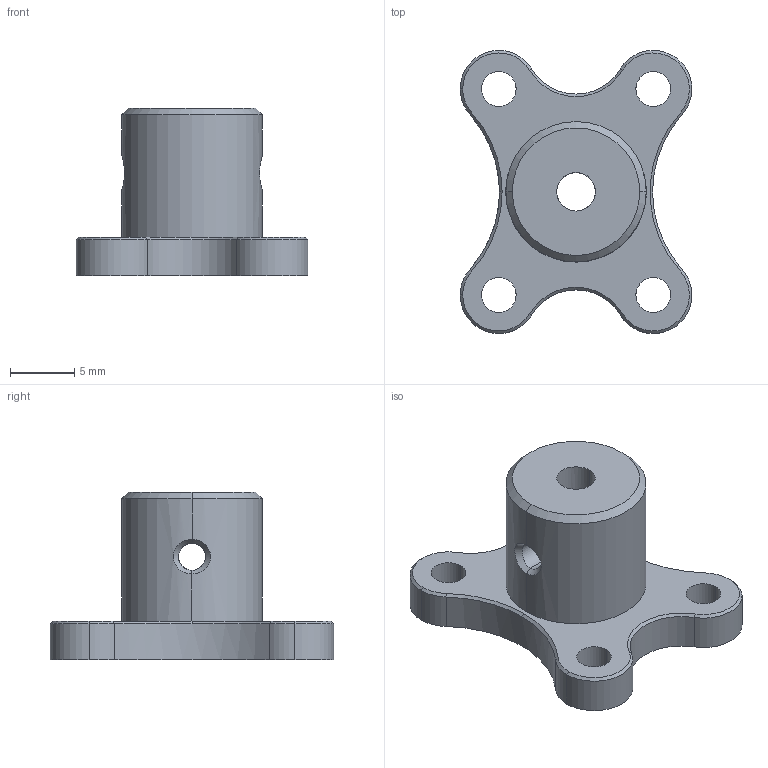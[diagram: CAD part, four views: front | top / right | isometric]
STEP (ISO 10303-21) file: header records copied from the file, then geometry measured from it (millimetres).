
FILE_DESCRIPTION (( 'STEP AP203' ), '1' );
FILE_NAME ('BR01_FOREARM_CONNECTOR_RevB.STEP');
FILE_SCHEMA (( 'CONFIG_CONTROL_DESIGN' ));
Length unit declared in the file: millimetre
Products named in the file (1): BR01_FOREARM_CONNECTOR_RevB
Bounding box: 17.99 x 22 x 13 mm (x, y, z)
Volume: 1599.1 mm3; surface area: 1345.7 mm2
Topology: 1 solids, 1 shells, 47 faces, 124 edges, 76 vertices
Faces by surface type: cylinder 27, cone 13, bspline 4, plane 3
Entity records: 3811 total; most frequent: CARTESIAN_POINT 2548, DIRECTION 252, ORIENTED_EDGE 248, EDGE_CURVE 124, AXIS2_PLACEMENT_3D 104, VERTEX_POINT 76, CIRCLE 60, EDGE_LOOP 58
